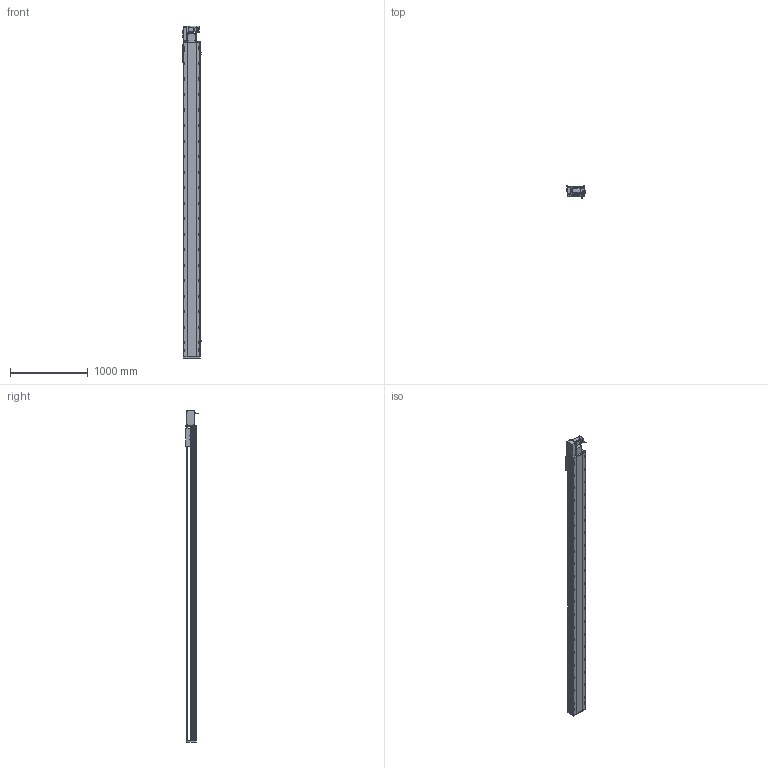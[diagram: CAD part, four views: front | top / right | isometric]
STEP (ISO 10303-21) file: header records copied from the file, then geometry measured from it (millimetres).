
FILE_DESCRIPTION (( 'STEP AP214' ), '1' );
FILE_NAME ('RTB22S-XX-3700-L-M75-C4.STEP', '2025-12-12T03:37:10', ( '' ), ( '' ), 'SwSTEP 2.0', 'SolidWorks 2018', '' );
FILE_SCHEMA (( 'AUTOMOTIVE_DESIGN' ));
Length unit declared in the file: millimetre
Products named in the file (14): 750W萇儂^RTB22S-XX-XX-L-M75-C4; RTB22S-XX-3700-L-M75-C4; RTB22S-GY-008-M75--萇儂啣^RTB22S-L-々湍釱蚾饜_RTB22S-XX-XX-L-M75-C4; RTB22S-L-々湍釱蚾饜^RTB22S-XX-XX-L-M75-C4; RTB22S-GY-005P^RTB22S-L-々湍釱蚾饜_RTB22S-XX-XX-L-M75-C4; RTB22S-GY-018P^RTB22S-L-々湍釱蚾饜_RTB22S-XX-XX-L-M75-C4; RTH22-GY-013外置感应片^RTB22S-XX-XX-L-M75-C4; RTB22S-GY-007奻裔^RTB22S-XX-XX-L-M75-C4; RTB22S-L-011菁釱^RTB22S-XX-XX-L-M75-C4; RTB22S-GY-017P^RTB22S-L-々湍釱蚾饜_RTB22S-XX-XX-L-M75-C4; RTB22S-L-004賑釱^RTB22S-XX-XX-L-M75-C4; OMRON EE-SX672 传感器^RTB22S-XX-XX-L-M75-C4; RTB22S-GY-001耜裔^RTB22S-XX-XX-L-M75-C4; RTB22S-GY-014--々湍釱^RTB22S-L-々湍釱蚾饜_RTB22S-XX-XX-L-M75-C4
Assembly tree (16 placements, depth 3):
  RTB22S-XX-3700-L-M75-C4
    RTB22S-L-011菁釱^RTB22S-XX-XX-L-M75-C4
    750W萇儂^RTB22S-XX-XX-L-M75-C4
    RTB22S-L-004賑釱^RTB22S-XX-XX-L-M75-C4
    OMRON EE-SX672 传感器^RTB22S-XX-XX-L-M75-C4  x3
    RTH22-GY-013外置感应片^RTB22S-XX-XX-L-M75-C4
    RTB22S-GY-007奻裔^RTB22S-XX-XX-L-M75-C4
    RTB22S-GY-001耜裔^RTB22S-XX-XX-L-M75-C4
    RTB22S-L-々湍釱蚾饜^RTB22S-XX-XX-L-M75-C4
      RTB22S-GY-014--々湍釱^RTB22S-L-々湍釱蚾饜_RTB22S-XX-XX-L-M75-C4
      RTB22S-GY-017P^RTB22S-L-々湍釱蚾饜_RTB22S-XX-XX-L-M75-C4  x2
      RTB22S-GY-005P^RTB22S-L-々湍釱蚾饜_RTB22S-XX-XX-L-M75-C4
      RTB22S-GY-008-M75--萇儂啣^RTB22S-L-々湍釱蚾饜_RTB22S-XX-XX-L-M75-C4
      RTB22S-GY-018P^RTB22S-L-々湍釱蚾饜_RTB22S-XX-XX-L-M75-C4
Bounding box: 238.5 x 162.7 x 4279 mm (x, y, z)
Volume: 52742458.3 mm3; surface area: 5362345.4 mm2
Topology: 15 solids, 15 shells, 2217 faces, 6036 edges, 3842 vertices
Faces by surface type: plane 941, cylinder 778, bspline 296, cone 190, sphere 8, torus 4
Entity records: 61322 total; most frequent: CARTESIAN_POINT 17096, ORIENTED_EDGE 8756, DIRECTION 8652, EDGE_CURVE 4378, AXIS2_PLACEMENT_3D 3138, VERTEX_POINT 2846, LINE 2376, VECTOR 2376
